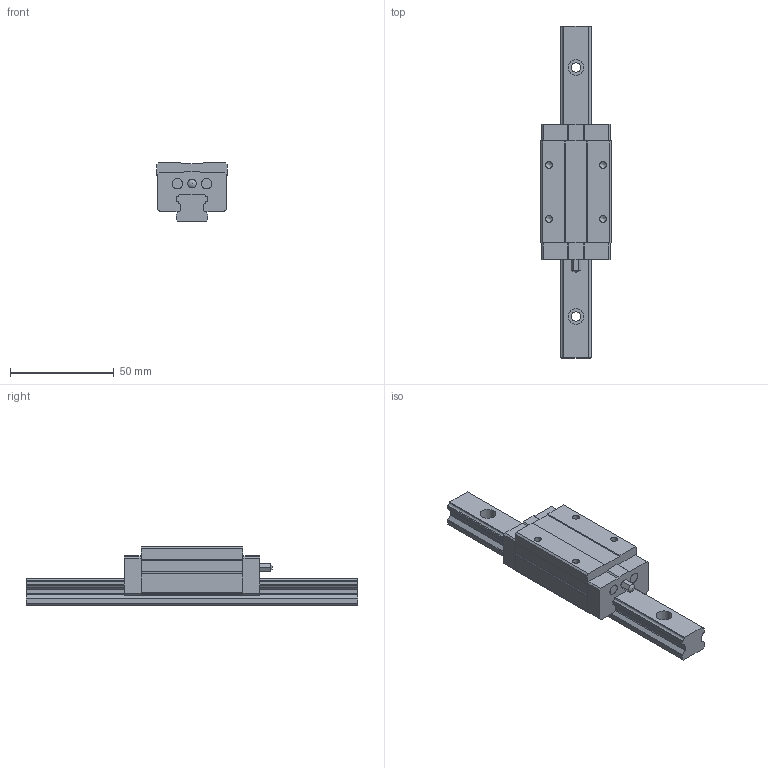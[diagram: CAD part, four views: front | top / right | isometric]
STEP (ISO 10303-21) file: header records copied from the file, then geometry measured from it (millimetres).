
FILE_DESCRIPTION( ( 'Unknown' ), '1' );
FILE_NAME( 'D:/inetpub/WonSTNew/WebParts/Download/H15SRLUU1-160L20_20.step', 'Unknown', ( 'Unknown' ), ( 'Unknown' ), 'PSStep 15.0.49', 'Unknown', ' ' );
FILE_SCHEMA( ( 'AUTOMOTIVE_DESIGN { 1 0 10303 214 1 1 1 1 }' ) );
Length unit declared in the file: millimetre
Products named in the file (4): Assem1; H 15_RAIL; H 15SRL_BLOCK; A-M4
Assembly tree (3 placements, depth 2):
  Assem1
    H 15_RAIL
    H 15SRL_BLOCK
    A-M4
Bounding box: 34 x 160 x 28 mm (x, y, z)
Volume: 67908.5 mm3; surface area: 20344.5 mm2
Topology: 3 solids, 3 shells, 150 faces, 402 edges, 267 vertices
Faces by surface type: plane 86, cylinder 58, cone 5, sphere 1
Full cylindrical faces by diameter (mm): 3.242 x6, 4 x1, 4.5 x3, 5 x4, 7.5 x3
Entity records: 5802 total; most frequent: DIRECTION 800, CARTESIAN_POINT 785, ORIENTED_EDGE 738, EDGE_CURVE 369, AXIS2_PLACEMENT_3D 277, VERTEX_POINT 262, LINE 246, VECTOR 246
